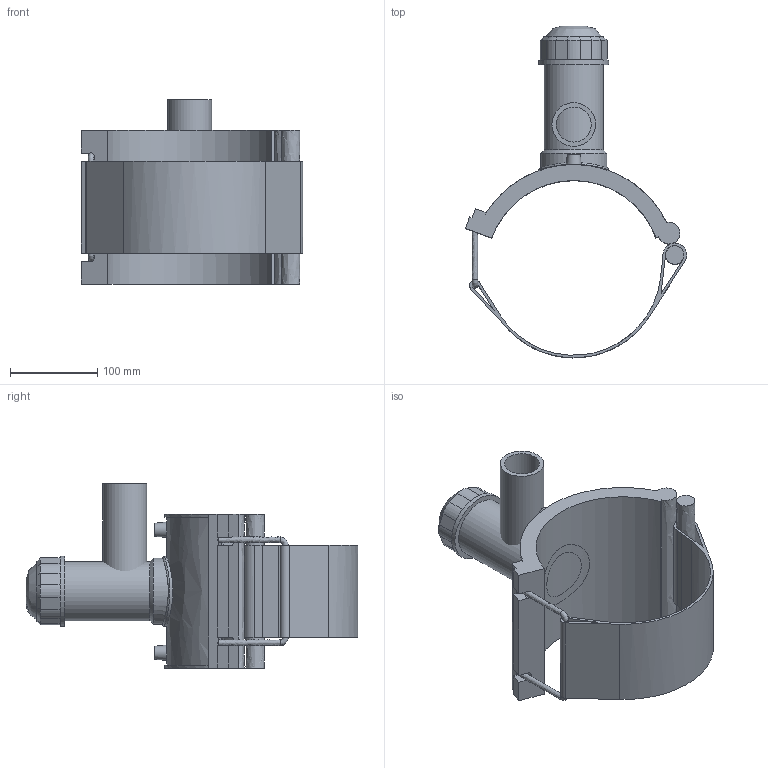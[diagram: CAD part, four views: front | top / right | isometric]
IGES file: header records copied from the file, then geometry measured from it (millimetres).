
Global section: file name: 4963P4200050; native system: Autodesk Inventor 2019; preprocessor: unknown; author: KIM; date: 20220317.113155; units: millimetre
Bounding box: 253.18 x 379.98 x 211 mm (x, y, z)
Volume: 1571774.3 mm3; surface area: 347776.4 mm2
Topology: 3 solids, 3 shells, 122 faces, 309 edges, 201 vertices
Faces by surface type: bspline 122
